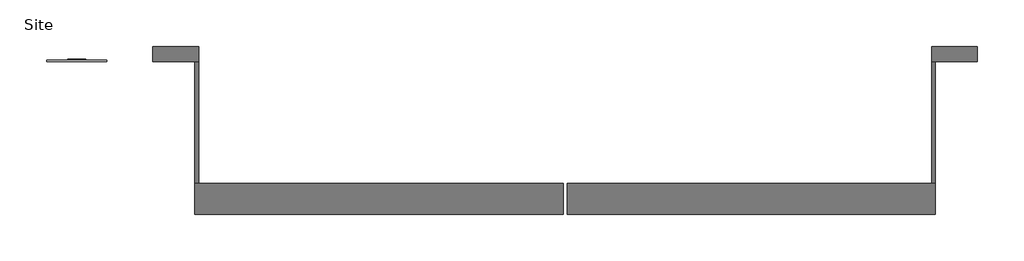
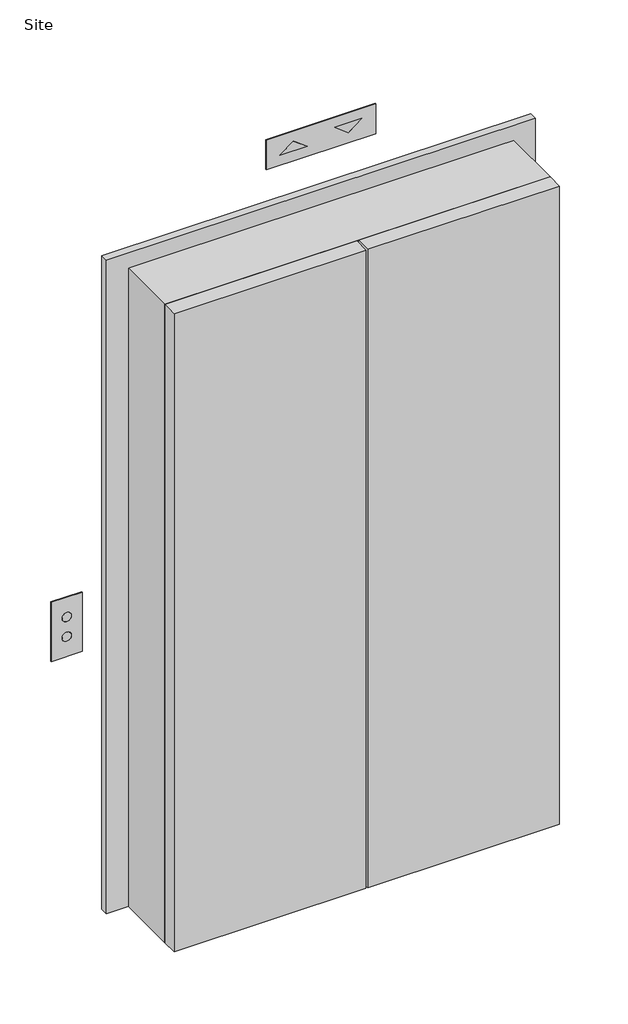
# One storey: 1 proxy.
"""IFC4 building model written with IfcOpenShell, lengths in millimetres."""

from ifc_helpers import new_model, si_unit, origin, place, context, project, spatial, transform, mapped, element, save
from components import proxy_fe7a46d2

model = new_model("IFC4")

# Units and contexts
model_context = context("Model", 3, world=origin())
ifc_project = project(units=[si_unit("LENGTHUNIT", "METRE", prefix="MILLI")], contexts=[model_context])

# Site, building, storey
site = spatial("IfcSite", under=ifc_project)
building = spatial("IfcBuilding", under=site)
storey = spatial("IfcBuildingStorey", under=building, Name="Site", Elevation=0.0)

# Proxy
placement = place(None, origin())
proxy_shape = proxy_fe7a46d2(model_context)
element("IfcBuildingElementProxy", 1, Name="Elevator Door-Center : 48\" x 84\"", ObjectType="Elevator Door-Center : 48\" x 84\"", at=placement, inside=storey, context=model_context, shape_type="MappedRepresentation", body=[
    mapped(proxy_shape, transform((14461.8268394, 5816.6, 0.0), x_axis=(-1.0, 0.0, 0.0), y_axis=(0.0, -1.0, 0.0), z_axis=(0.0, 0.0, 1.0))),
])

save(model, "model.ifc")
